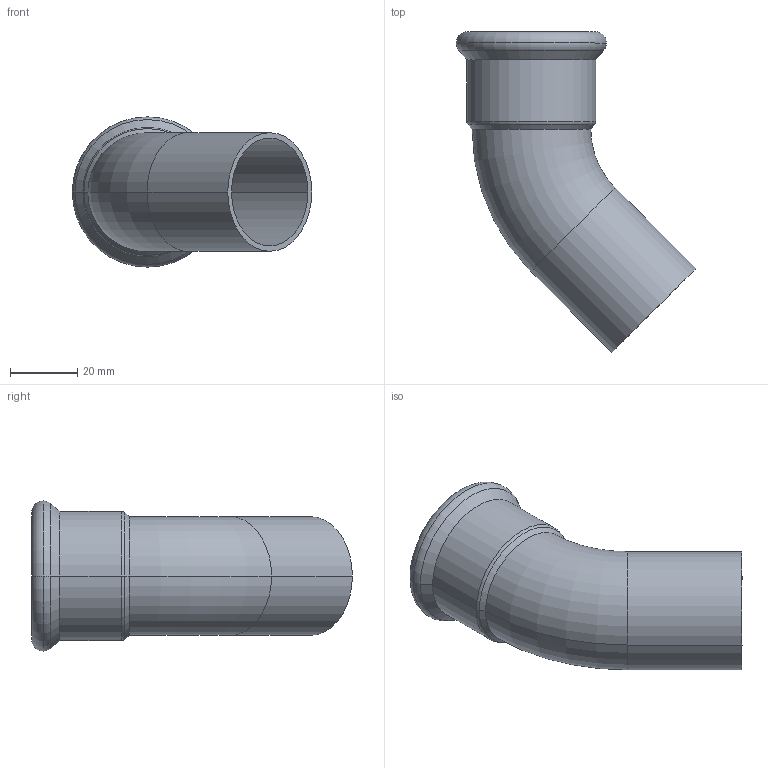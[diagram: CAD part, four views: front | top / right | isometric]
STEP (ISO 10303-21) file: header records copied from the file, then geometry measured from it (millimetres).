
FILE_DESCRIPTION(('CoCreate Modeling STEP Export'),'2;1');
FILE_NAME('C1412 35x35.stp','2014-11-11T16:42:55',(''),(''),'CoCreate Modeling STEP processor for AP214 (Solid Model)','CoCreate Modeling 17.00A 17-Jun-2010 (C) Parametric Technology GmbH','');
FILE_SCHEMA(('AUTOMOTIVE_DESIGN { 1 0 10303 214 1 1 1 1 }'));
Length unit declared in the file: millimetre
Products named in the file (2): C1412_35x35
Assembly tree (1 placements, depth 2):
  C1412_35x35
    C1412_35x35
Bounding box: 70.99 x 95.12 x 44.55 mm (x, y, z)
Volume: 18884.2 mm3; surface area: 21929.9 mm2
Topology: 1 solids, 1 shells, 32 faces, 69 edges, 41 vertices
Faces by surface type: cylinder 14, torus 10, plane 4, cone 4
Entity records: 753 total; most frequent: ORIENTED_EDGE 138, DIRECTION 116, CARTESIAN_POINT 108, EDGE_CURVE 69, AXIS2_PLACEMENT_3D 49, VERTEX_POINT 41, EDGE_LOOP 36, FACE_OUTER_BOUND 32
